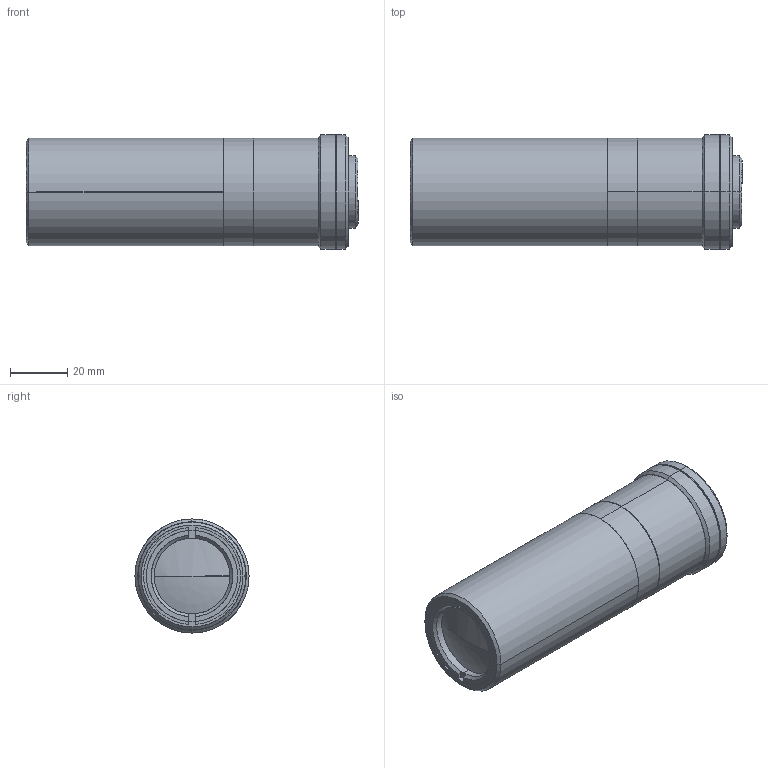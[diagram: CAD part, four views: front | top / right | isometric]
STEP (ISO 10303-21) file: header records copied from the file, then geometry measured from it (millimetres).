
FILE_DESCRIPTION(('LS-TCL-0239'),'2;1');
FILE_NAME('LS-TCL-0239.stp','2026-10-15T21:54:57',('LumaSpec Vision'),('LumaSpec Vision'),'LumaSpec Vision','LumaSpec Vision','');
FILE_SCHEMA(('AUTOMOTIVE_DESIGN { 1 0 10303 214 1 1 1 1 }'));
Length unit declared in the file: millimetre
Products named in the file (58): LumaSpec Vision
Assembly tree (57 placements, depth 2):
  LumaSpec Vision
    LumaSpec Vision
    LumaSpec Vision
    LumaSpec Vision
    LumaSpec Vision
    LumaSpec Vision
    LumaSpec Vision
    LumaSpec Vision
    LumaSpec Vision
    LumaSpec Vision
    LumaSpec Vision
    LumaSpec Vision
    LumaSpec Vision
    LumaSpec Vision
    LumaSpec Vision
    LumaSpec Vision
    LumaSpec Vision
    LumaSpec Vision
    LumaSpec Vision
    LumaSpec Vision
    LumaSpec Vision
    LumaSpec Vision
    LumaSpec Vision
    LumaSpec Vision
    LumaSpec Vision
    LumaSpec Vision
    LumaSpec Vision
    LumaSpec Vision
    LumaSpec Vision
    LumaSpec Vision
    LumaSpec Vision
    LumaSpec Vision
    LumaSpec Vision
    LumaSpec Vision
    LumaSpec Vision
    LumaSpec Vision
    LumaSpec Vision
    LumaSpec Vision
    LumaSpec Vision
    LumaSpec Vision
    LumaSpec Vision
    LumaSpec Vision
    LumaSpec Vision
    LumaSpec Vision
    LumaSpec Vision
    LumaSpec Vision
    LumaSpec Vision
    LumaSpec Vision
    LumaSpec Vision
    LumaSpec Vision
    LumaSpec Vision
    LumaSpec Vision
    LumaSpec Vision
    LumaSpec Vision
    LumaSpec Vision
    LumaSpec Vision
    LumaSpec Vision
    LumaSpec Vision
Bounding box: 116.4 x 40 x 40 mm (x, y, z)
Surface area: 22818.7 mm2 (no closed solid volume)
Topology: 0 solids, 57 shells, 57 faces, 1724 edges, 1721 vertices
Faces by surface type: revolution 38, bspline 19
Entity records: 27517 total; most frequent: CARTESIAN_POINT 11763, B_SPLINE_CURVE_WITH_KNOTS 3266, ORIENTED_EDGE 1721, EDGE_CURVE 1721, VERTEX_POINT 1721, SURFACE_CURVE 1721, PCURVE 1721, DEFINITIONAL_REPRESENTATION 1721
